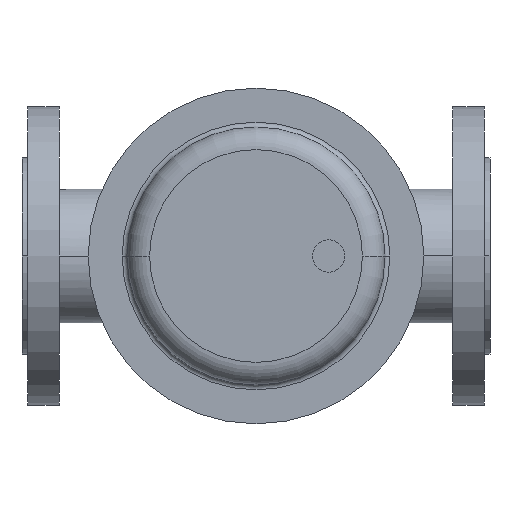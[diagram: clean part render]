
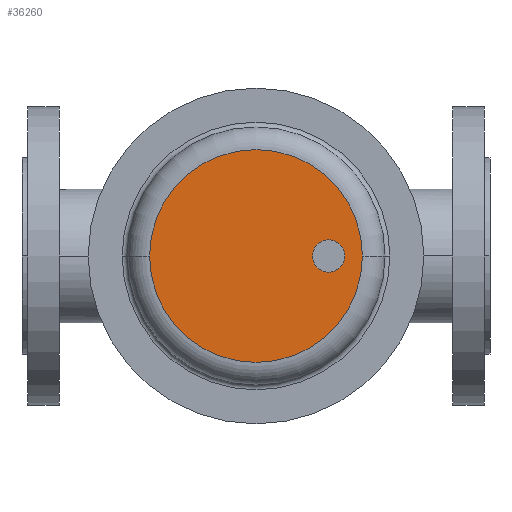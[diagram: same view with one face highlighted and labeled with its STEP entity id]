
A CAD part, front view. The second image highlights one B-rep face of the part: STEP entity #36260.
In plain terms, the highlighted planar face has unit normal (0, -1, 0).
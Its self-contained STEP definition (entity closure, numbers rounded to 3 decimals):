
#35760=CARTESIAN_POINT('',(79.07,-484.,0.));
#35770=VERTEX_POINT('',#35760);
#35800=CARTESIAN_POINT('',(145.,-484.,0.));
#35810=DIRECTION('',(0.,1.,0.));
#35820=DIRECTION('',(1.,0.,0.));
#35830=AXIS2_PLACEMENT_3D('',#35800,#35810,#35820);
#35840=CIRCLE('',#35830,65.93);
#35850=CARTESIAN_POINT('',(210.93,-484.,0.));
#35860=VERTEX_POINT('',#35850);
#35870=EDGE_CURVE('',#35860,#35770,#35840,.T.);
#36010=CARTESIAN_POINT('',(177.965,-484.,0.));
#36020=DIRECTION('',(0.,-1.,0.));
#36030=DIRECTION('',(-1.,0.,0.));
#36040=AXIS2_PLACEMENT_3D('',#36010,#36020,#36030);
#36050=PLANE('',#36040);
#36060=CARTESIAN_POINT('',(190.,-484.,0.));
#36070=DIRECTION('',(0.,1.,0.));
#36080=DIRECTION('',(1.,0.,0.));
#36090=AXIS2_PLACEMENT_3D('',#36060,#36070,#36080);
#36100=CIRCLE('',#36090,10.);
#36110=CARTESIAN_POINT('',(200.,-484.,0.));
#36120=VERTEX_POINT('',#36110);
#36130=CARTESIAN_POINT('',(180.,-484.,0.));
#36140=VERTEX_POINT('',#36130);
#36150=EDGE_CURVE('',#36120,#36140,#36100,.T.);
#36160=ORIENTED_EDGE('',*,*,#36150,.T.);
#36170=EDGE_CURVE('',#36140,#36120,#36100,.T.);
#36180=ORIENTED_EDGE('',*,*,#36170,.T.);
#36190=EDGE_LOOP('',(#36180,#36160));
#36200=FACE_BOUND('',#36190,.T.);
#36210=ORIENTED_EDGE('',*,*,#35870,.F.);
#36220=EDGE_CURVE('',#35770,#35860,#35840,.T.);
#36230=ORIENTED_EDGE('',*,*,#36220,.F.);
#36240=EDGE_LOOP('',(#36230,#36210));
#36250=FACE_OUTER_BOUND('',#36240,.T.);
#36260=ADVANCED_FACE('',(#36200,#36250),#36050,.T.);
